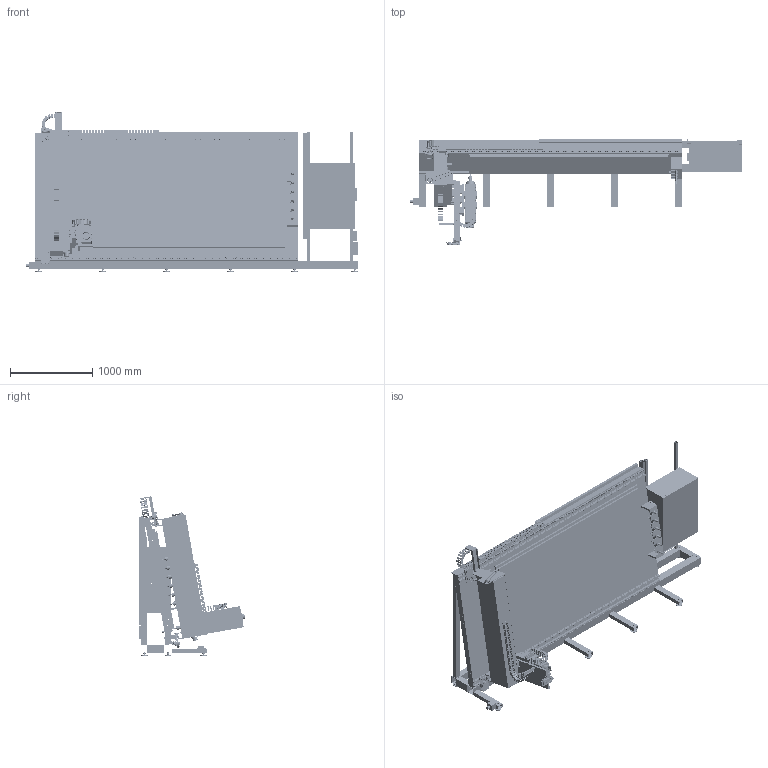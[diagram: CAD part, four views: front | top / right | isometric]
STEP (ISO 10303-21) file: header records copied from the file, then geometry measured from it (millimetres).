
FILE_DESCRIPTION(('golf model'),'2;1');
FILE_NAME('golf','',(''),(''),'golf_step_io','golf','');
FILE_SCHEMA(('AUTOMOTIVE_DESIGN { 1 0 10303 214 1 1 1 1 }'));
Length unit declared in the file: millimetre
Products named in the file (293): assembly; air; air.frl; air.valves; atc_rack; atc_rack.fork_plate; atc_rack.spine; atc_rack.stand_0; atc_rack.stand_1; atc_rack.holder_0; atc_rack.holder_1; atc_rack.holder_2; atc_rack.holder_3; atc_rack.holder_4; atc_rack.holder_5; bed; bed.rail_beam_bottom; bed.beam_cap_bottom_0; bed.beam_cap_bottom_1; bed.rail_beam_top; bed.beam_cap_top_0; bed.beam_cap_top_1; bed.rail_land_bottom; bed.rail_land_top; bed.rack_land_bottom; bed.rack_land_top; bed.cross_00; bed.cross_01; bed.cross_02; bed.cross_03; bed.cross_04; bed.cross_05; bed.cross_06; bed.cross_07; bed.cross_08; bed.cross_09; bed.cross_10; bed.cross_11; bed.x_chain_tray; bed.substrate.0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
Assembly tree (292 placements, depth 3):
  assembly
    air
      air.frl
      air.valves
    atc_rack
      atc_rack.fork_plate
      atc_rack.spine
      atc_rack.stand_0
      atc_rack.stand_1
      atc_rack.holder_0
      atc_rack.holder_1
      atc_rack.holder_2
      atc_rack.holder_3
      atc_rack.holder_4
      atc_rack.holder_5
    bed
      bed.rail_beam_bottom
      bed.beam_cap_bottom_0
      bed.beam_cap_bottom_1
      bed.rail_beam_top
      bed.beam_cap_top_0
      bed.beam_cap_top_1
      bed.rail_land_bottom
      bed.rail_land_top
      bed.rack_land_bottom
      bed.rack_land_top
      bed.cross_00
      bed.cross_01
      bed.cross_02
      bed.cross_03
      bed.cross_04
      bed.cross_05
      bed.cross_06
      bed.cross_07
      bed.cross_08
      bed.cross_09
      bed.cross_10
      bed.cross_11
      bed.x_chain_tray
      bed.substrate.0
      bed.substrate.1
      bed.substrate.2
      bed.spoilboard.0
      bed.spoilboard.1
      bed.x_rail_bottom
      bed.x_rail_top
      bed.rack_bottom.0
      bed.rack_bottom.1
      bed.rack_bottom.2
      bed.rack_bottom.3
      bed.rack_top.0
      bed.rack_top.1
      bed.rack_top.2
      bed.rack_top.3
      bed.x_chain
    cabinet
      cabinet.enclosure
      cabinet.door
      cabinet.gland_plate
      cabinet.fan
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Bounding box: 4031.5 x 1296.12 x 1938.66 mm (x, y, z)
Volume: 387405445.4 mm3; surface area: 64183485.8 mm2
Topology: 392 solids, 392 shells, 27726 faces, 78162 edges, 52164 vertices
Faces by surface type: plane 25816, cylinder 1902, cone 8
Full cylindrical faces by diameter (mm): 3.3 x6, 4.2 x64, 4.5 x96, 4.6 x30, 5 x366, 5.5 x76, 6 x1, 6.6 x269, 6.8 x27, 7 x190, 8.4 x12, 9 x45, 10 x2, 10.2 x1, 11 x370, 11.25 x2, 11.8 x3, 12 x27, 12.2 x2, 12.4 x3, 12.6 x2, 13 x10, 13.2 x18, 14 x35, 15 x11, 15.1 x4, 16 x14, 17 x15, 18 x29, 19.8 x1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
Entity records: 884846 total; most frequent: CARTESIAN_POINT 163325, ORIENTED_EDGE 151868, DIRECTION 135898, EDGE_CURVE 75934, VECTOR 71908, LINE 71908, VERTEX_POINT 51848, EDGE_LOOP 32904
